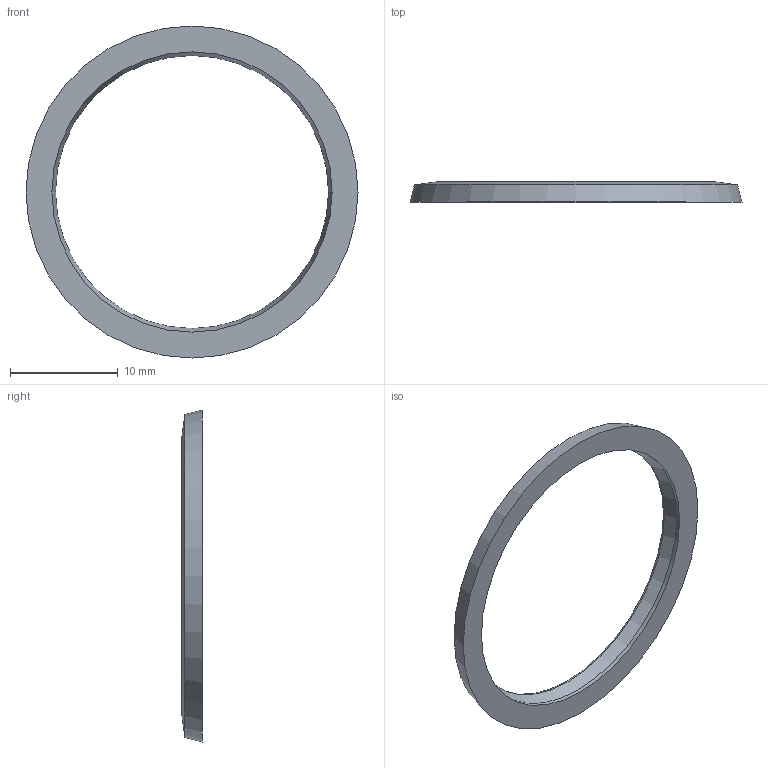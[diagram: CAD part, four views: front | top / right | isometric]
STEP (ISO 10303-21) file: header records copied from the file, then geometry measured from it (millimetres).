
FILE_DESCRIPTION( ( 'STEP AP203' ), '1' );
FILE_NAME( 'C:/Temp/Ganter_Step_05_03_2020/data/3_5/gn7600/Sealing ring GN 7600-30-26-2-HNBR-85.stp', '2020-03-12T13:43:52', ( 'License CC BY-ND 4.0' ), ( 'CADENAS' ), ' ', 'PARTsolutions', ' ' );
FILE_SCHEMA( ( 'CONFIG_CONTROL_DESIGN' ) );
Length unit declared in the file: millimetre
Products named in the file (1): _Sealing ring GN 7600-30-26-2-HNBR-85
Bounding box: 30.8 x 1.9 x 30.8 mm (x, y, z)
Volume: 359.2 mm3; surface area: 727.1 mm2
Topology: 1 solids, 1 shells, 6 faces, 11 edges, 6 vertices
Faces by surface type: cone 3, torus 1, cylinder 1, plane 1
Full cylindrical faces by diameter (mm): 26 x1
Entity records: 172 total; most frequent: DIRECTION 26, CARTESIAN_POINT 19, AXIS2_PLACEMENT_3D 13, EDGE_LOOP 12, ORIENTED_EDGE 12, FACE_OUTER_BOUND 8, ADVANCED_FACE 6, EDGE_CURVE 6
